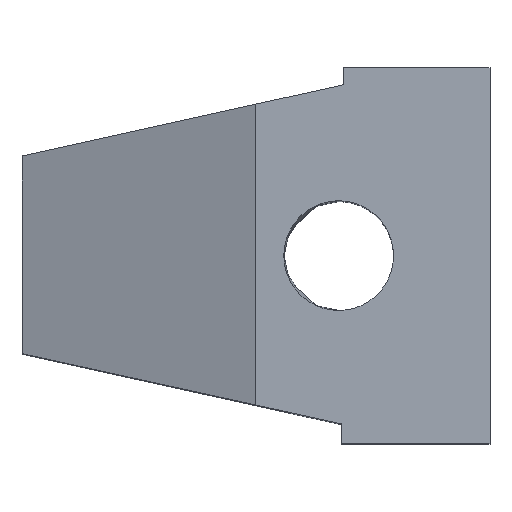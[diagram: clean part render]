
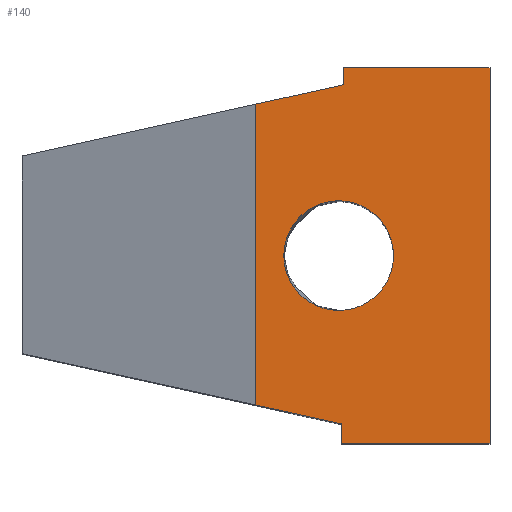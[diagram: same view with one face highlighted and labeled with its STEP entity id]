
A CAD part, top view. The second image highlights one B-rep face of the part: STEP entity #140.
In plain terms, the highlighted planar face has unit normal (0, 0, 1).
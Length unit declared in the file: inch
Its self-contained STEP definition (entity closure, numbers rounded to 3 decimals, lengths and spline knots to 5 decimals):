
#122=EDGE_CURVE('',#302,#303,#304,.T.);
#126=EDGE_CURVE('',#303,#309,#310,.T.);
#128=EDGE_CURVE('',#309,#312,#313,.T.);
#140=ADVANCED_FACE('',(#330,#331),#332,.T.);
#142=EDGE_CURVE('',#334,#335,#336,.T.);
#156=EDGE_CURVE('',#355,#302,#356,.T.);
#160=EDGE_CURVE('',#334,#361,#362,.T.);
#218=EDGE_CURVE('',#312,#361,#439,.T.);
#242=EDGE_CURVE('',#335,#355,#466,.T.);
#302=VERTEX_POINT('',#535);
#303=VERTEX_POINT('',#536);
#304=LINE('',#537,#538);
#309=VERTEX_POINT('',#546);
#310=B_SPLINE_CURVE_WITH_KNOTS('',3,(#547,#548,#549,#550),.UNSPECIFIED.,.F.,.F.,(4,4),(0.0,0.66389),.UNSPECIFIED.);
#312=VERTEX_POINT('',#553);
#313=LINE('',#554,#555);
#330=FACE_BOUND('',#582,.T.);
#331=FACE_OUTER_BOUND('',#583,.T.);
#332=PLANE('',#584);
#334=VERTEX_POINT('',#587);
#335=VERTEX_POINT('',#588);
#336=LINE('',#589,#590);
#355=VERTEX_POINT('',#618);
#356=LINE('',#619,#620);
#361=VERTEX_POINT('',#628);
#362=LINE('',#629,#630);
#439=LINE('',#761,#762);
#466=LINE('',#815,#816);
#535=CARTESIAN_POINT('',(1.20978,-0.14872,1.60128));
#536=CARTESIAN_POINT('',(1.20978,1.77933,1.60128));
#537=CARTESIAN_POINT('',(1.20978,-0.14872,1.60128));
#538=VECTOR('',#863,1.0);
#546=CARTESIAN_POINT('',(0.45838,1.77949,1.60128));
#547=CARTESIAN_POINT('',(1.25978,1.77933,1.60128));
#548=CARTESIAN_POINT('',(1.03849,1.77931,1.60128));
#549=CARTESIAN_POINT('',(0.66567,1.77942,1.60128));
#550=CARTESIAN_POINT('',(0.45838,1.77949,1.60128));
#553=CARTESIAN_POINT('',(0.45838,1.69187,1.60128));
#554=CARTESIAN_POINT('',(0.45838,0.79348,1.60128));
#555=VECTOR('',#865,1.0);
#582=EDGE_LOOP('',(#878,#879,#880,#881));
#583=EDGE_LOOP('',(#882,#883,#884,#885,#886,#887,#888,#889));
#584=AXIS2_PLACEMENT_3D('',#890,#891,#892);
#587=CARTESIAN_POINT('',(0.00747,0.04884,1.60128));
#588=CARTESIAN_POINT('',(0.45001,-0.04843,1.60128));
#589=CARTESIAN_POINT('',(0.12568,0.02286,1.60128));
#590=VECTOR('',#893,1.0);
#618=CARTESIAN_POINT('',(0.45001,-0.14872,1.60128));
#619=CARTESIAN_POINT('',(0.00747,-0.14872,1.60128));
#620=VECTOR('',#914,1.0);
#628=CARTESIAN_POINT('',(0.00747,1.59234,1.60128));
#629=CARTESIAN_POINT('',(0.00747,-0.14872,1.60128));
#630=VECTOR('',#916,1.0);
#761=CARTESIAN_POINT('',(-0.07629,1.57385,1.60128));
#762=VECTOR('',#1050,1.0);
#815=CARTESIAN_POINT('',(0.45001,-0.12527,1.60128));
#816=VECTOR('',#1079,1.0);
#863=DIRECTION('',(0.0,1.0,0.0));
#865=DIRECTION('',(0.0,-1.0,0.0));
#878=ORIENTED_EDGE('',*,*,#1097,.T.);
#879=ORIENTED_EDGE('',*,*,#1098,.T.);
#880=ORIENTED_EDGE('',*,*,#1099,.T.);
#881=ORIENTED_EDGE('',*,*,#1100,.T.);
#882=ORIENTED_EDGE('',*,*,#126,.T.);
#883=ORIENTED_EDGE('',*,*,#128,.T.);
#884=ORIENTED_EDGE('',*,*,#218,.T.);
#885=ORIENTED_EDGE('',*,*,#160,.F.);
#886=ORIENTED_EDGE('',*,*,#142,.T.);
#887=ORIENTED_EDGE('',*,*,#242,.T.);
#888=ORIENTED_EDGE('',*,*,#156,.T.);
#889=ORIENTED_EDGE('',*,*,#122,.T.);
#890=CARTESIAN_POINT('',(0.60863,-0.14872,1.60128));
#891=DIRECTION('',(0.0,0.0,1.0));
#892=DIRECTION('',(1.0,0.0,0.0));
#893=DIRECTION('',(0.977,-0.215,0.0));
#914=DIRECTION('',(1.0,0.0,0.0));
#916=DIRECTION('',(0.0,1.0,0.0));
#1050=DIRECTION('',(-0.976,-0.216,0.0));
#1079=DIRECTION('',(0.0,-1.0,0.0));
#1097=EDGE_CURVE('',#1141,#1142,#1143,.T.);
#1098=EDGE_CURVE('',#1142,#1144,#1145,.T.);
#1099=EDGE_CURVE('',#1144,#1146,#1147,.T.);
#1100=EDGE_CURVE('',#1146,#1141,#1148,.T.);
#1141=VERTEX_POINT('',#1204);
#1142=VERTEX_POINT('',#1205);
#1143=B_SPLINE_CURVE_WITH_KNOTS('',3,(#1206,#1207,#1208,#1209),.UNSPECIFIED.,.F.,.F.,(4,4),(0.0,1.0),.UNSPECIFIED.);
#1144=VERTEX_POINT('',#1210);
#1145=B_SPLINE_CURVE_WITH_KNOTS('',3,(#1211,#1212,#1213,#1214),.UNSPECIFIED.,.F.,.F.,(4,4),(0.0,1.0),.UNSPECIFIED.);
#1146=VERTEX_POINT('',#1215);
#1147=B_SPLINE_CURVE_WITH_KNOTS('',3,(#1216,#1217,#1218,#1219),.UNSPECIFIED.,.F.,.F.,(4,4),(0.0,1.0),.UNSPECIFIED.);
#1148=B_SPLINE_CURVE_WITH_KNOTS('',3,(#1220,#1221,#1222,#1223),.UNSPECIFIED.,.F.,.F.,(4,4),(0.0,1.0),.UNSPECIFIED.);
#1204=CARTESIAN_POINT('',(0.15179,0.81528,1.60128));
#1205=CARTESIAN_POINT('',(0.43304,1.09653,1.60128));
#1206=CARTESIAN_POINT('',(0.15179,0.81528,1.60128));
#1207=CARTESIAN_POINT('',(0.15179,0.97061,1.60128));
#1208=CARTESIAN_POINT('',(0.27771,1.09653,1.60128));
#1209=CARTESIAN_POINT('',(0.43304,1.09653,1.60128));
#1210=CARTESIAN_POINT('',(0.71429,0.81528,1.60128));
#1211=CARTESIAN_POINT('',(0.43304,1.09653,1.60128));
#1212=CARTESIAN_POINT('',(0.58837,1.09653,1.60128));
#1213=CARTESIAN_POINT('',(0.71429,0.97061,1.60128));
#1214=CARTESIAN_POINT('',(0.71429,0.81528,1.60128));
#1215=CARTESIAN_POINT('',(0.43304,0.53403,1.60128));
#1216=CARTESIAN_POINT('',(0.71429,0.81528,1.60128));
#1217=CARTESIAN_POINT('',(0.71429,0.65996,1.60128));
#1218=CARTESIAN_POINT('',(0.58837,0.53403,1.60128));
#1219=CARTESIAN_POINT('',(0.43304,0.53403,1.60128));
#1220=CARTESIAN_POINT('',(0.43304,0.53403,1.60128));
#1221=CARTESIAN_POINT('',(0.27771,0.53403,1.60128));
#1222=CARTESIAN_POINT('',(0.15179,0.65996,1.60128));
#1223=CARTESIAN_POINT('',(0.15179,0.81528,1.60128));
